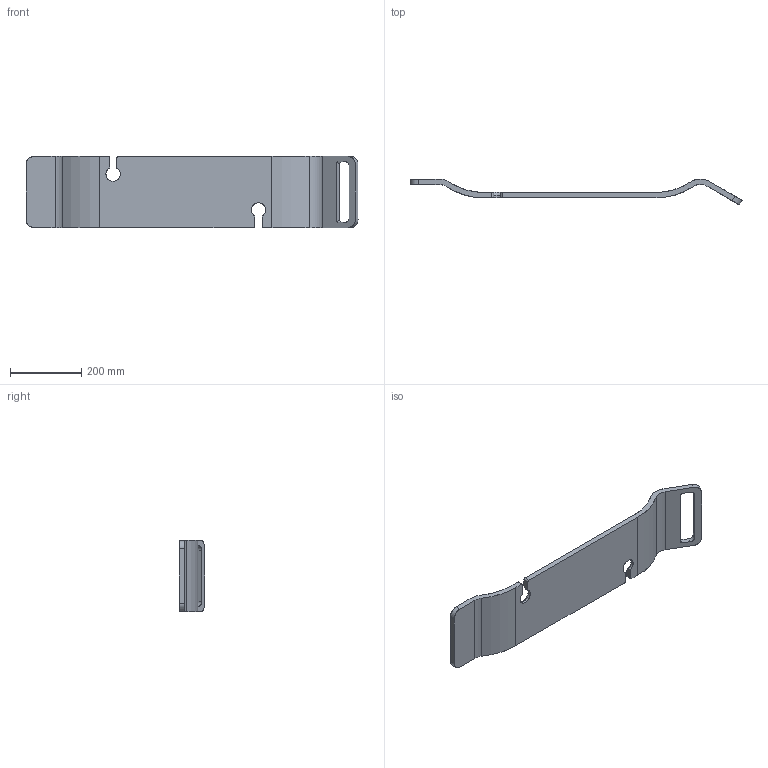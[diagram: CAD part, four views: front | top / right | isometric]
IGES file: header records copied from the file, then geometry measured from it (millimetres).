
Start section: SolidWorks IGES file using analytic representation for surfaces
Global section: file name: C:\Users\exiao\Documents\Echo's Local Files\001 Work\241016 ADHOC-02509\TOM-09\sku_TOM-09_igs.IGS; native system: SolidWorks 2023; preprocessor: SolidWorks 2023; author: exiao; date: 241017.100509; units: millimetre
Bounding box: 934 x 72.56 x 200 mm (x, y, z)
Surface area: 406209.7 mm2 (no closed solid volume)
Topology: 0 solids, 0 shells, 45 faces, 729 edges, 729 vertices
Faces by surface type: revolution 25, bspline 20
